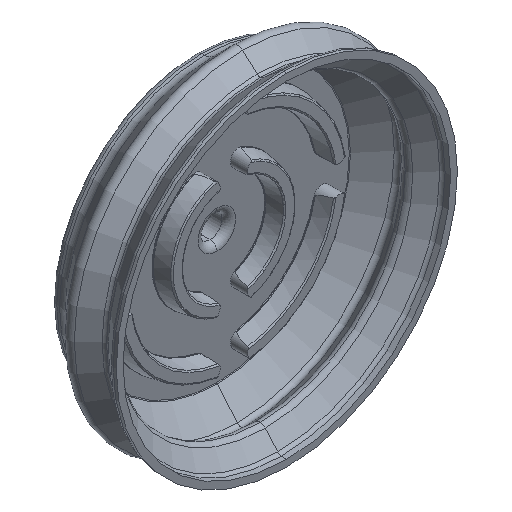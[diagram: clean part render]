
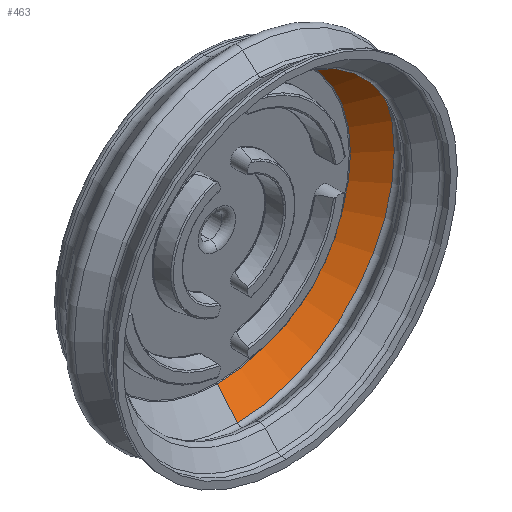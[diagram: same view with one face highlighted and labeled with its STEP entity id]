
A CAD part, isometric view. The second image highlights one B-rep face of the part: STEP entity #463.
In plain terms, the highlighted conical face has half-angle 50 degrees and reference radius 39.062 mm.
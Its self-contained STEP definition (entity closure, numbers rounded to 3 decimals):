
#88 = CARTESIAN_POINT ( 'NONE',  ( 0., 20.406, -39.062 ) ) ;
#122 = AXIS2_PLACEMENT_3D ( 'NONE', #2186, #2104, #1764 ) ;
#199 = EDGE_CURVE ( 'NONE', #4313, #4952, #1308, .T. ) ;
#463 = ADVANCED_FACE ( 'NONE', ( #2435 ), #2667, .F. ) ;
#779 = DIRECTION ( 'NONE',  ( 0., -0.643, 0.766 ) ) ;
#1046 = EDGE_LOOP ( 'NONE', ( #2975, #4145, #1649, #3100 ) ) ;
#1123 = VERTEX_POINT ( 'NONE', #1670 ) ;
#1308 = CIRCLE ( 'NONE', #4964, 39.062 ) ;
#1578 = EDGE_CURVE ( 'NONE', #4313, #1123, #3212, .T. ) ;
#1587 = CARTESIAN_POINT ( 'NONE',  ( 0., 20.406, 39.062 ) ) ;
#1603 = CARTESIAN_POINT ( 'NONE',  ( 0., 20.406, 0. ) ) ;
#1649 = ORIENTED_EDGE ( 'NONE', *, *, #2935, .T. ) ;
#1669 = EDGE_CURVE ( 'NONE', #1123, #3640, #3987, .T. ) ;
#1670 = CARTESIAN_POINT ( 'NONE',  ( 0., 14.548, 46.044 ) ) ;
#1764 = DIRECTION ( 'NONE',  ( 0., 0., 1. ) ) ;
#1767 = LINE ( 'NONE', #3480, #4806 ) ;
#2092 = DIRECTION ( 'NONE',  ( 0., 0., 1. ) ) ;
#2104 = DIRECTION ( 'NONE',  ( 0., 1., 0. ) ) ;
#2186 = CARTESIAN_POINT ( 'NONE',  ( 0., 14.548, 0. ) ) ;
#2435 = FACE_OUTER_BOUND ( 'NONE', #1046, .T. ) ;
#2564 = DIRECTION ( 'NONE',  ( 0., -0.643, -0.766 ) ) ;
#2667 = CONICAL_SURFACE ( 'NONE', #3335, 39.062, 0.873 ) ;
#2806 = DIRECTION ( 'NONE',  ( 0., 1., 0. ) ) ;
#2935 = EDGE_CURVE ( 'NONE', #4952, #3640, #1767, .T. ) ;
#2975 = ORIENTED_EDGE ( 'NONE', *, *, #1578, .F. ) ;
#3100 = ORIENTED_EDGE ( 'NONE', *, *, #1669, .F. ) ;
#3212 = LINE ( 'NONE', #1587, #4520 ) ;
#3335 = AXIS2_PLACEMENT_3D ( 'NONE', #1603, #3991, #4346 ) ;
#3480 = CARTESIAN_POINT ( 'NONE',  ( 0., 20.406, -39.062 ) ) ;
#3640 = VERTEX_POINT ( 'NONE', #3878 ) ;
#3878 = CARTESIAN_POINT ( 'NONE',  ( 0., 14.548, -46.044 ) ) ;
#3987 = CIRCLE ( 'NONE', #122, 46.044 ) ;
#3991 = DIRECTION ( 'NONE',  ( 0., -1., 0. ) ) ;
#4012 = CARTESIAN_POINT ( 'NONE',  ( 0., 20.406, 39.062 ) ) ;
#4115 = CARTESIAN_POINT ( 'NONE',  ( 0., 20.406, 0. ) ) ;
#4145 = ORIENTED_EDGE ( 'NONE', *, *, #199, .T. ) ;
#4313 = VERTEX_POINT ( 'NONE', #4012 ) ;
#4346 = DIRECTION ( 'NONE',  ( 0., 0., -1. ) ) ;
#4520 = VECTOR ( 'NONE', #779, 1000. ) ;
#4806 = VECTOR ( 'NONE', #2564, 1000. ) ;
#4952 = VERTEX_POINT ( 'NONE', #88 ) ;
#4964 = AXIS2_PLACEMENT_3D ( 'NONE', #4115, #2806, #2092 ) ;
